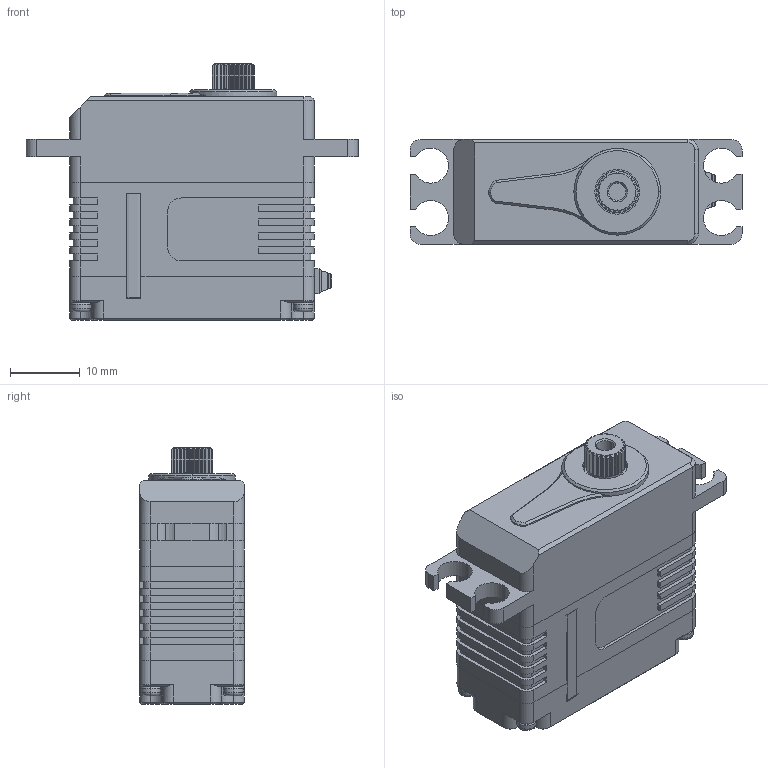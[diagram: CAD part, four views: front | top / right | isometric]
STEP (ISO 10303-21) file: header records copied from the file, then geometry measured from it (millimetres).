
FILE_DESCRIPTION (( 'STEP AP214' ), '1' );
FILE_NAME ('X15-7.4-M-1812-x_DM_20220114.STEP', '2022-01-14T02:31:14', ( '微软用户' ), ( '微软中国' ), 'SwSTEP 2.0', 'SolidWorks 2016', '' );
FILE_SCHEMA (( 'AUTOMOTIVE_DESIGN' ));
Length unit declared in the file: millimetre
Products named in the file (1): X15-7.4-M-1812-x_DM_20220114
Bounding box: 47.5 x 15 x 36.7 mm (x, y, z)
Surface area: 6178.4 mm2 (no closed solid volume)
Topology: 0 solids, 11 shells, 548 faces, 1631 edges, 1068 vertices
Faces by surface type: plane 284, cylinder 184, cone 64, torus 16
Entity records: 24536 total; most frequent: CARTESIAN_POINT 4281, ORIENTED_EDGE 2932, DIRECTION 2837, EDGE_CURVE 1631, VERTEX_POINT 1068, AXIS2_PLACEMENT_3D 966, LINE 905, VECTOR 905
